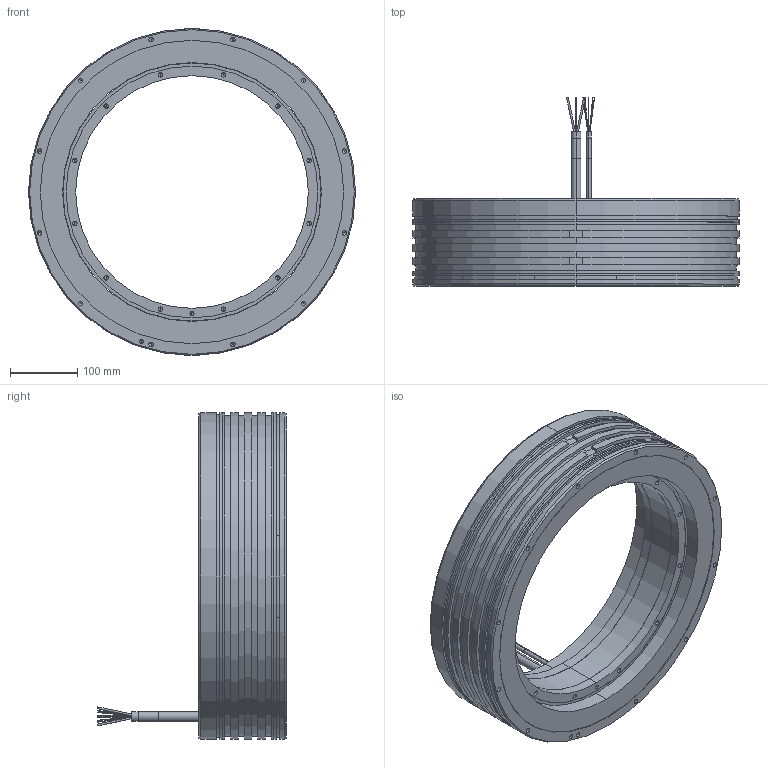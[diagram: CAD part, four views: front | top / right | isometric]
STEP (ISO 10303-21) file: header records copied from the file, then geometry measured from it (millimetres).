
FILE_DESCRIPTION (( 'STEP AP203' ), '1' );
FILE_NAME ('TM-2-D7.STEP', '2023-08-03T03:08:35', ( '' ), ( '' ), 'SwSTEP 2.0', 'SolidWorks 2015', '' );
FILE_SCHEMA (( 'CONFIG_CONTROL_DESIGN' ));
Length unit declared in the file: millimetre
Products named in the file (3): TM-2-DX_rotor_TM-2-D7_rotor; TM-2-D7; TM-2-DX_stator_TM-2-D7_stator
Assembly tree (2 placements, depth 2):
  TM-2-D7
    TM-2-DX_stator_TM-2-D7_stator
    TM-2-DX_rotor_TM-2-D7_rotor
Bounding box: 485 x 280.29 x 485 mm (x, y, z)
Volume: 10032713.1 mm3; surface area: 799367.7 mm2
Topology: 2 solids, 2 shells, 350 faces, 822 edges, 452 vertices
Faces by surface type: cylinder 189, cone 112, plane 49
Entity records: 9635 total; most frequent: DIRECTION 1754, CARTESIAN_POINT 1667, ORIENTED_EDGE 1436, EDGE_CURVE 718, AXIS2_PLACEMENT_3D 709, VERTEX_POINT 452, EDGE_LOOP 436, CIRCLE 354
